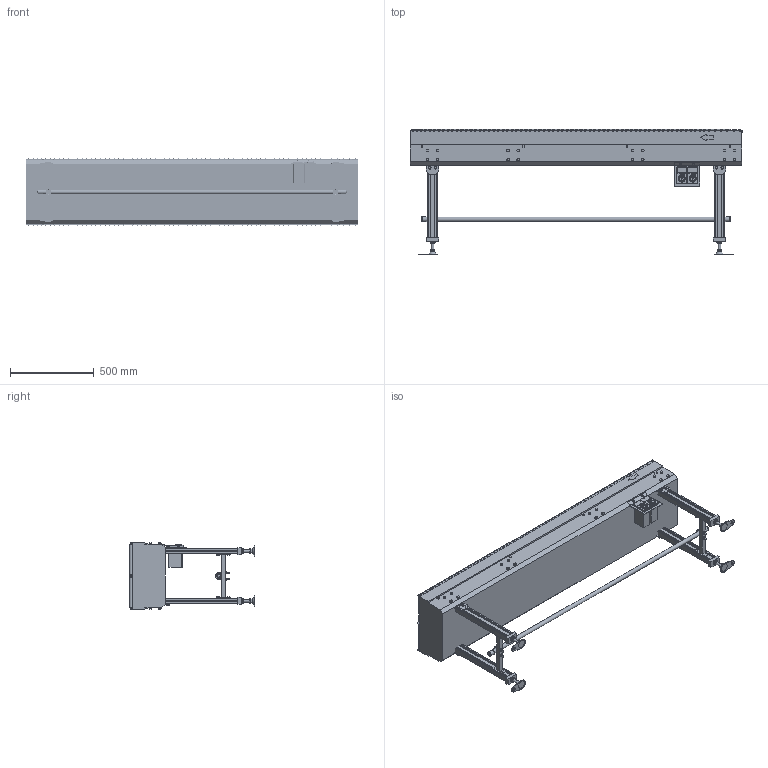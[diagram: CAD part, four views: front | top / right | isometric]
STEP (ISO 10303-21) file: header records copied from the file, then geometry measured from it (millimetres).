
FILE_DESCRIPTION (( 'STEP AP214' ), '1' );
FILE_NAME ('GA22-304x2-300-200-DC-7.5.STEP', '2024-08-08T23:26:00', ( '' ), ( '' ), 'SwSTEP 2.0', 'SolidWorks 2017', '' );
FILE_SCHEMA (( 'AUTOMOTIVE_DESIGN' ));
Length unit declared in the file: millimetre
Products named in the file (1): GA22-304x2-300-200-DC-7.5
Bounding box: 1985 x 750 x 403.46 mm (x, y, z)
Volume: 167320409.8 mm3; surface area: 5682739.3 mm2
Topology: 19 solids, 19 shells, 3007 faces, 7508 edges, 4986 vertices
Faces by surface type: plane 2062, cylinder 911, cone 18, torus 16
Full cylindrical faces by diameter (mm): 4.5 x8, 6 x142, 7 x4, 8 x284, 8.723 x8, 12.2 x2, 13 x4, 15.4 x48, 16 x8, 17 x12, 25.4 x1, 28.4 x2, 29.825 x2, 30 x4
Entity records: 118812 total; most frequent: CARTESIAN_POINT 17093, DIRECTION 13803, ORIENTED_EDGE 13526, EDGE_CURVE 6763, VERTEX_POINT 4796, AXIS2_PLACEMENT_3D 4612, VECTOR 4579, LINE 4579
